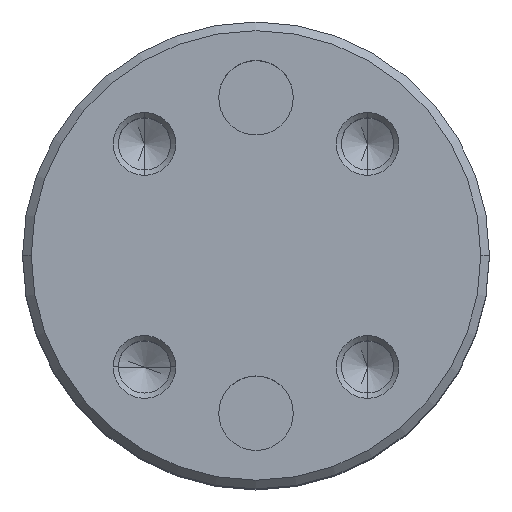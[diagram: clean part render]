
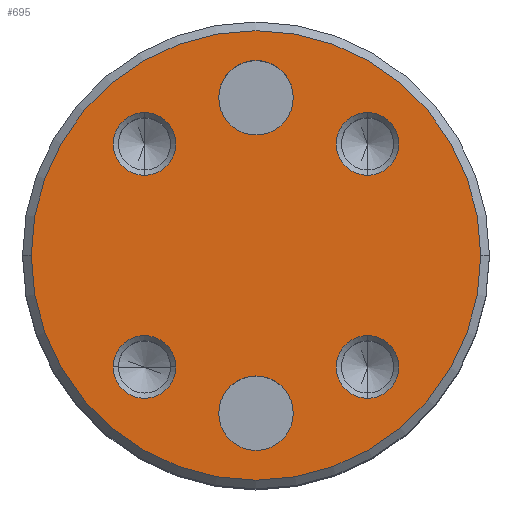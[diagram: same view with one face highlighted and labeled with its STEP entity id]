
A CAD part, top view. The second image highlights one B-rep face of the part: STEP entity #695.
In plain terms, the highlighted planar face has unit normal (0, 0, 1).
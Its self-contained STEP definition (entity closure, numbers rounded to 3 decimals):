
#7 = CARTESIAN_POINT ( 'NONE',  ( 8.98, 11.505, 25.4 ) ) ;
#12 = DIRECTION ( 'NONE',  ( 1., 0., 0. ) ) ;
#29 = DIRECTION ( 'NONE',  ( 0., -1., 0. ) ) ;
#45 = CARTESIAN_POINT ( 'NONE',  ( 18.1, 0., 25.4 ) ) ;
#47 = AXIS2_PLACEMENT_3D ( 'NONE', #733, #356, #1141 ) ;
#80 = CIRCLE ( 'NONE', #47, 2.525 ) ;
#88 = VERTEX_POINT ( 'NONE', #1987 ) ;
#89 = DIRECTION ( 'NONE',  ( 1., 0., 0. ) ) ;
#95 = DIRECTION ( 'NONE',  ( 0., 0., 1. ) ) ;
#96 = FACE_BOUND ( 'NONE', #1869, .T. ) ;
#100 = DIRECTION ( 'NONE',  ( 0., 0., -1. ) ) ;
#108 = VERTEX_POINT ( 'NONE', #7 ) ;
#118 = VERTEX_POINT ( 'NONE', #462 ) ;
#146 = CIRCLE ( 'NONE', #344, 2.525 ) ;
#172 = AXIS2_PLACEMENT_3D ( 'NONE', #436, #452, #1942 ) ;
#179 = CARTESIAN_POINT ( 'NONE',  ( -8.98, -8.98, 25.4 ) ) ;
#205 = AXIS2_PLACEMENT_3D ( 'NONE', #1124, #960, #29 ) ;
#268 = VERTEX_POINT ( 'NONE', #45 ) ;
#279 = CIRCLE ( 'NONE', #703, 2.525 ) ;
#343 = EDGE_LOOP ( 'NONE', ( #1934, #776 ) ) ;
#344 = AXIS2_PLACEMENT_3D ( 'NONE', #901, #1205, #1801 ) ;
#356 = DIRECTION ( 'NONE',  ( 0., 0., 1. ) ) ;
#405 = CARTESIAN_POINT ( 'NONE',  ( 0., 12.7, 25.4 ) ) ;
#412 = CARTESIAN_POINT ( 'NONE',  ( 0., -12.7, 25.4 ) ) ;
#430 = CIRCLE ( 'NONE', #1946, 3. ) ;
#436 = CARTESIAN_POINT ( 'NONE',  ( 0., 0., 25.4 ) ) ;
#438 = DIRECTION ( 'NONE',  ( 0., -1., 0. ) ) ;
#452 = DIRECTION ( 'NONE',  ( 0., 0., -1. ) ) ;
#462 = CARTESIAN_POINT ( 'NONE',  ( -8.98, 6.455, 25.4 ) ) ;
#510 = ORIENTED_EDGE ( 'NONE', *, *, #1012, .T. ) ;
#530 = ORIENTED_EDGE ( 'NONE', *, *, #1875, .F. ) ;
#531 = DIRECTION ( 'NONE',  ( -1., 0., 0. ) ) ;
#534 = AXIS2_PLACEMENT_3D ( 'NONE', #1096, #778, #1706 ) ;
#536 = CARTESIAN_POINT ( 'NONE',  ( 0., 0., 25.4 ) ) ;
#543 = AXIS2_PLACEMENT_3D ( 'NONE', #412, #100, #1193 ) ;
#555 = EDGE_CURVE ( 'NONE', #118, #968, #146, .T. ) ;
#560 = CARTESIAN_POINT ( 'NONE',  ( 8.98, -11.505, 25.4 ) ) ;
#575 = VERTEX_POINT ( 'NONE', #1631 ) ;
#606 = ORIENTED_EDGE ( 'NONE', *, *, #1352, .F. ) ;
#638 = DIRECTION ( 'NONE',  ( 0., 0., 1. ) ) ;
#646 = CARTESIAN_POINT ( 'NONE',  ( 0., -12.7, 25.4 ) ) ;
#649 = CIRCLE ( 'NONE', #543, 3. ) ;
#654 = EDGE_LOOP ( 'NONE', ( #606, #1796 ) ) ;
#691 = CIRCLE ( 'NONE', #1430, 2.525 ) ;
#695 = ADVANCED_FACE ( 'NONE', ( #1485, #96, #1103, #1852, #1003, #1350, #1020 ), #913, .F. ) ;
#703 = AXIS2_PLACEMENT_3D ( 'NONE', #1373, #751, #438 ) ;
#720 = CARTESIAN_POINT ( 'NONE',  ( 0., 12.7, 25.4 ) ) ;
#733 = CARTESIAN_POINT ( 'NONE',  ( -8.98, 8.98, 25.4 ) ) ;
#751 = DIRECTION ( 'NONE',  ( 0., 0., 1. ) ) ;
#771 = CARTESIAN_POINT ( 'NONE',  ( -6.455, -8.98, 25.4 ) ) ;
#773 = ORIENTED_EDGE ( 'NONE', *, *, #1067, .F. ) ;
#776 = ORIENTED_EDGE ( 'NONE', *, *, #1183, .F. ) ;
#778 = DIRECTION ( 'NONE',  ( 0., 0., 1. ) ) ;
#790 = DIRECTION ( 'NONE',  ( 0., 0., 1. ) ) ;
#810 = EDGE_CURVE ( 'NONE', #108, #1636, #1237, .T. ) ;
#841 = CIRCLE ( 'NONE', #1329, 3. ) ;
#889 = CARTESIAN_POINT ( 'NONE',  ( -8.98, -8.98, 25.4 ) ) ;
#895 = EDGE_CURVE ( 'NONE', #1532, #88, #1086, .T. ) ;
#901 = CARTESIAN_POINT ( 'NONE',  ( -8.98, 8.98, 25.4 ) ) ;
#913 = PLANE ( 'NONE',  #172 ) ;
#916 = VERTEX_POINT ( 'NONE', #1115 ) ;
#960 = DIRECTION ( 'NONE',  ( 0., 0., 1. ) ) ;
#968 = VERTEX_POINT ( 'NONE', #1441 ) ;
#993 = ORIENTED_EDGE ( 'NONE', *, *, #1081, .F. ) ;
#1003 = FACE_BOUND ( 'NONE', #343, .T. ) ;
#1012 = EDGE_CURVE ( 'NONE', #268, #1700, #1977, .T. ) ;
#1020 = FACE_BOUND ( 'NONE', #1303, .T. ) ;
#1026 = DIRECTION ( 'NONE',  ( 0., 0., 1. ) ) ;
#1041 = EDGE_LOOP ( 'NONE', ( #1865, #510 ) ) ;
#1067 = EDGE_CURVE ( 'NONE', #1597, #916, #841, .T. ) ;
#1079 = CARTESIAN_POINT ( 'NONE',  ( 8.98, 6.455, 25.4 ) ) ;
#1081 = EDGE_CURVE ( 'NONE', #916, #1597, #430, .T. ) ;
#1086 = CIRCLE ( 'NONE', #205, 2.525 ) ;
#1096 = CARTESIAN_POINT ( 'NONE',  ( 0., 0., 25.4 ) ) ;
#1103 = FACE_BOUND ( 'NONE', #1366, .T. ) ;
#1115 = CARTESIAN_POINT ( 'NONE',  ( 3., 12.7, 25.4 ) ) ;
#1122 = EDGE_CURVE ( 'NONE', #575, #1279, #691, .T. ) ;
#1124 = CARTESIAN_POINT ( 'NONE',  ( 8.98, -8.98, 25.4 ) ) ;
#1127 = CIRCLE ( 'NONE', #1453, 2.525 ) ;
#1141 = DIRECTION ( 'NONE',  ( 0., -1., 0. ) ) ;
#1146 = EDGE_CURVE ( 'NONE', #1716, #1419, #649, .T. ) ;
#1183 = EDGE_CURVE ( 'NONE', #88, #1532, #279, .T. ) ;
#1191 = AXIS2_PLACEMENT_3D ( 'NONE', #179, #1711, #1403 ) ;
#1193 = DIRECTION ( 'NONE',  ( 1., 0., 0. ) ) ;
#1194 = CARTESIAN_POINT ( 'NONE',  ( -3., 12.7, 25.4 ) ) ;
#1205 = DIRECTION ( 'NONE',  ( 0., 0., 1. ) ) ;
#1232 = ORIENTED_EDGE ( 'NONE', *, *, #1719, .F. ) ;
#1237 = CIRCLE ( 'NONE', #1738, 2.525 ) ;
#1245 = DIRECTION ( 'NONE',  ( 0., 0., -1. ) ) ;
#1250 = DIRECTION ( 'NONE',  ( 0., -1., 0. ) ) ;
#1256 = CARTESIAN_POINT ( 'NONE',  ( -3., -12.7, 25.4 ) ) ;
#1265 = CARTESIAN_POINT ( 'NONE',  ( 8.98, 8.98, 25.4 ) ) ;
#1279 = VERTEX_POINT ( 'NONE', #771 ) ;
#1285 = ORIENTED_EDGE ( 'NONE', *, *, #555, .F. ) ;
#1297 = ORIENTED_EDGE ( 'NONE', *, *, #1122, .F. ) ;
#1303 = EDGE_LOOP ( 'NONE', ( #1846, #1580 ) ) ;
#1329 = AXIS2_PLACEMENT_3D ( 'NONE', #405, #1026, #89 ) ;
#1338 = EDGE_CURVE ( 'NONE', #1419, #1716, #1544, .T. ) ;
#1350 = FACE_BOUND ( 'NONE', #1578, .T. ) ;
#1352 = EDGE_CURVE ( 'NONE', #1636, #108, #1127, .T. ) ;
#1366 = EDGE_LOOP ( 'NONE', ( #1285, #1232 ) ) ;
#1369 = AXIS2_PLACEMENT_3D ( 'NONE', #536, #1602, #531 ) ;
#1373 = CARTESIAN_POINT ( 'NONE',  ( 8.98, -8.98, 25.4 ) ) ;
#1403 = DIRECTION ( 'NONE',  ( 1., 0., 0. ) ) ;
#1406 = EDGE_CURVE ( 'NONE', #1700, #268, #1568, .T. ) ;
#1419 = VERTEX_POINT ( 'NONE', #1256 ) ;
#1430 = AXIS2_PLACEMENT_3D ( 'NONE', #889, #1780, #1629 ) ;
#1441 = CARTESIAN_POINT ( 'NONE',  ( -8.98, 11.505, 25.4 ) ) ;
#1453 = AXIS2_PLACEMENT_3D ( 'NONE', #1265, #790, #1555 ) ;
#1485 = FACE_OUTER_BOUND ( 'NONE', #1041, .T. ) ;
#1508 = CARTESIAN_POINT ( 'NONE',  ( -18.1, 0., 25.4 ) ) ;
#1532 = VERTEX_POINT ( 'NONE', #560 ) ;
#1535 = CARTESIAN_POINT ( 'NONE',  ( 8.98, 8.98, 25.4 ) ) ;
#1544 = CIRCLE ( 'NONE', #1828, 3. ) ;
#1555 = DIRECTION ( 'NONE',  ( 0., -1., 0. ) ) ;
#1568 = CIRCLE ( 'NONE', #534, 18.1 ) ;
#1576 = CARTESIAN_POINT ( 'NONE',  ( 3., -12.7, 25.4 ) ) ;
#1578 = EDGE_LOOP ( 'NONE', ( #993, #773 ) ) ;
#1580 = ORIENTED_EDGE ( 'NONE', *, *, #1338, .T. ) ;
#1597 = VERTEX_POINT ( 'NONE', #1194 ) ;
#1602 = DIRECTION ( 'NONE',  ( 0., 0., 1. ) ) ;
#1629 = DIRECTION ( 'NONE',  ( 1., 0., 0. ) ) ;
#1631 = CARTESIAN_POINT ( 'NONE',  ( -11.505, -8.98, 25.4 ) ) ;
#1636 = VERTEX_POINT ( 'NONE', #1079 ) ;
#1700 = VERTEX_POINT ( 'NONE', #1508 ) ;
#1706 = DIRECTION ( 'NONE',  ( -1., 0., 0. ) ) ;
#1711 = DIRECTION ( 'NONE',  ( 0., 0., 1. ) ) ;
#1716 = VERTEX_POINT ( 'NONE', #1576 ) ;
#1719 = EDGE_CURVE ( 'NONE', #968, #118, #80, .T. ) ;
#1738 = AXIS2_PLACEMENT_3D ( 'NONE', #1535, #638, #1250 ) ;
#1780 = DIRECTION ( 'NONE',  ( 0., 0., 1. ) ) ;
#1796 = ORIENTED_EDGE ( 'NONE', *, *, #810, .F. ) ;
#1801 = DIRECTION ( 'NONE',  ( 0., -1., 0. ) ) ;
#1828 = AXIS2_PLACEMENT_3D ( 'NONE', #646, #1245, #12 ) ;
#1846 = ORIENTED_EDGE ( 'NONE', *, *, #1146, .T. ) ;
#1852 = FACE_BOUND ( 'NONE', #654, .T. ) ;
#1865 = ORIENTED_EDGE ( 'NONE', *, *, #1406, .T. ) ;
#1869 = EDGE_LOOP ( 'NONE', ( #530, #1297 ) ) ;
#1875 = EDGE_CURVE ( 'NONE', #1279, #575, #1885, .T. ) ;
#1885 = CIRCLE ( 'NONE', #1191, 2.525 ) ;
#1934 = ORIENTED_EDGE ( 'NONE', *, *, #895, .F. ) ;
#1935 = DIRECTION ( 'NONE',  ( 1., 0., 0. ) ) ;
#1942 = DIRECTION ( 'NONE',  ( -1., 0., 0. ) ) ;
#1946 = AXIS2_PLACEMENT_3D ( 'NONE', #720, #95, #1935 ) ;
#1977 = CIRCLE ( 'NONE', #1369, 18.1 ) ;
#1987 = CARTESIAN_POINT ( 'NONE',  ( 8.98, -6.455, 25.4 ) ) ;
